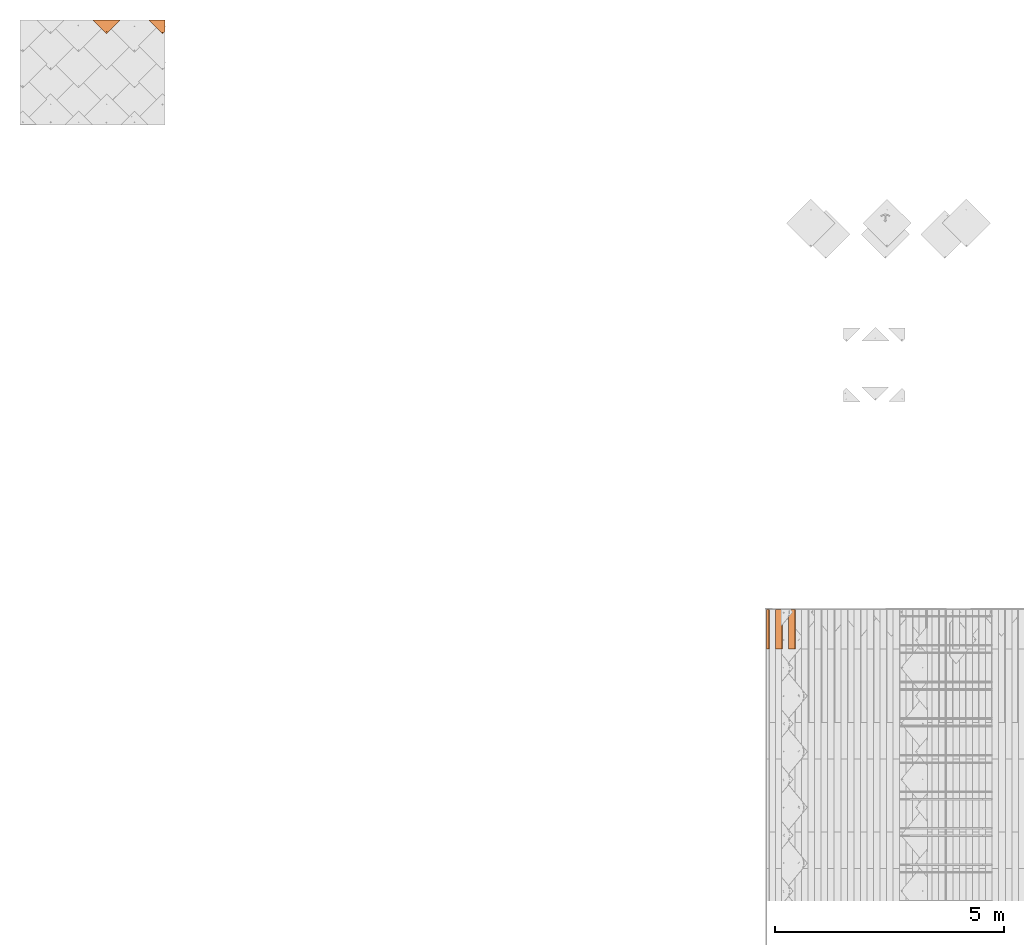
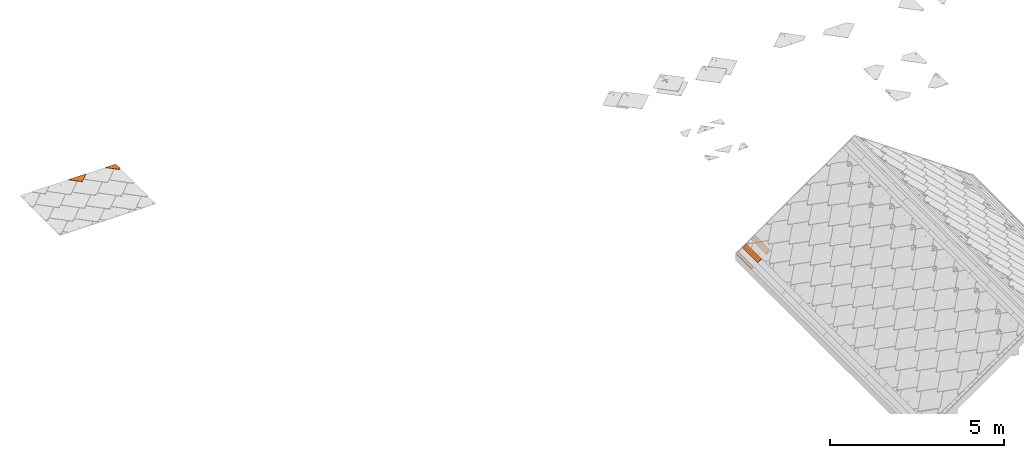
# One storey, part 106 of 133: 5 proxies, 1 element without a shape of its own.
"""IFC2X3 building model written with IfcOpenShell, lengths in millimetres."""

from ifc_helpers import new_model, entity, si_unit, converted_unit, derived_unit, direction, frame, frame_2d, origin, place, context, subcontext, project, spatial, polyline, rectangle, outline, extrude, faceted_brep, source, transform, mapped, material, material_list, type_object, type_shapes, element, aggregate, save


model = new_model("IFC2X3")

# Units and contexts
model_context = context("Model", 3, precision=0.01, world=origin(), true_north=direction((6.12303176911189e-17, 1.0)))
body_context = subcontext(model_context, "Body", "Model", "MODEL_VIEW")
ifc_project = project(units=[si_unit("LENGTHUNIT", "METRE", prefix="MILLI"), si_unit("AREAUNIT", "SQUARE_METRE"), si_unit("VOLUMEUNIT", "CUBIC_METRE"), converted_unit("PLANEANGLEUNIT", "DEGREE", entity("IfcRatioMeasure", 0.0174532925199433), si_unit("PLANEANGLEUNIT", "RADIAN"), dimensions=[0, 0, 0, 0, 0, 0, 0]), si_unit("MASSUNIT", "GRAM", prefix="KILO"), derived_unit("MASSDENSITYUNIT", [(si_unit("MASSUNIT", "GRAM", prefix="KILO"), 1), (si_unit("LENGTHUNIT", "METRE"), -3)]), si_unit("TIMEUNIT", "SECOND"), si_unit("FREQUENCYUNIT", "HERTZ"), si_unit("THERMODYNAMICTEMPERATUREUNIT", "DEGREE_CELSIUS"), derived_unit("THERMALTRANSMITTANCEUNIT", [(si_unit("MASSUNIT", "GRAM", prefix="KILO"), 1), (si_unit("THERMODYNAMICTEMPERATUREUNIT", "KELVIN"), -1), (si_unit("TIMEUNIT", "SECOND"), -3)]), derived_unit("VOLUMETRICFLOWRATEUNIT", [(si_unit("LENGTHUNIT", "METRE"), 3), (si_unit("TIMEUNIT", "SECOND"), -1)]), si_unit("ELECTRICCURRENTUNIT", "AMPERE"), si_unit("ELECTRICVOLTAGEUNIT", "VOLT"), si_unit("POWERUNIT", "WATT"), si_unit("FORCEUNIT", "NEWTON", prefix="KILO"), si_unit("ILLUMINANCEUNIT", "LUX"), si_unit("LUMINOUSFLUXUNIT", "LUMEN"), si_unit("LUMINOUSINTENSITYUNIT", "CANDELA"), derived_unit("USERDEFINED", [(si_unit("MASSUNIT", "GRAM", prefix="KILO"), -1), (si_unit("LENGTHUNIT", "METRE"), -2), (si_unit("TIMEUNIT", "SECOND"), 3), (si_unit("LUMINOUSFLUXUNIT", "LUMEN"), 1)]), derived_unit("LINEARVELOCITYUNIT", [(si_unit("LENGTHUNIT", "METRE"), 1), (si_unit("TIMEUNIT", "SECOND"), -1)]), si_unit("PRESSUREUNIT", "PASCAL"), derived_unit("USERDEFINED", [(si_unit("LENGTHUNIT", "METRE"), -2), (si_unit("MASSUNIT", "GRAM", prefix="KILO"), 1), (si_unit("TIMEUNIT", "SECOND"), -2)])], contexts=[model_context])

# Site, building, storey
site_placement = place(None, origin())
site = spatial("IfcSite", under=ifc_project, at=site_placement, Name="Default", CompositionType="ELEMENT")
building_placement = place(site_placement, origin())
building = spatial("IfcBuilding", under=site, at=building_placement, CompositionType="ELEMENT")
storey_placement = place(building_placement, origin())
storey = spatial("IfcBuildingStorey", under=building, at=storey_placement, Name="Level 1", CompositionType="ELEMENT", Elevation=0.0)

# Assembly, proxies
assembly_placement = place(storey_placement, origin())
assembly = element("IfcElementAssembly", 1, at=assembly_placement, inside=storey, Name="Structural Framing Assembly:Roof Construction Assembly", ObjectType="Structural Framing Assembly:Roof Construction Assembly", AssemblyPlace="NOTDEFINED", PredefinedType="USERDEFINED")
ifc_material_1 = material(Name="Wood - Generic - Wood For Showcase")
building_element_proxy_type_1 = type_object("IfcBuildingElementProxyType", Name="Structural Framing 15", PredefinedType="NOTDEFINED", material=ifc_material_1)
shared_shape_1 = source(origin(), body_context, "Body", "SweptSolid", [
    extrude(rectangle(XDim=24.9999999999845, YDim=174.344679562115, at=frame_2d((-1.77635683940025e-13, -4.54747350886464e-13), x_axis=(0.0, 1.0))), frame((1128.20180147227, 3055.55080214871, 2760.23940055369), z_axis=(0.0, 1.0, 0.0), x_axis=(-0.819152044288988, 0.0, -0.573576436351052)), (0.0, 0.0, 1.0), 870.000000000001),
])
type_shapes(building_element_proxy_type_1, [shared_shape_1])
proxy_1_placement = place(assembly_placement, frame((-3284.74041550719, 0.0, -2300.0)))
proxy_1 = element("IfcBuildingElementProxy", 2, at=proxy_1_placement, type_object=building_element_proxy_type_1, material=ifc_material_1, Name="Structural Framing 134:Structural Framing 15", ObjectType="Structural Framing 134:Structural Framing 15", context=body_context, shape_type="MappedRepresentation", body=[
    mapped(shared_shape_1, transform((0.0, 0.0, 0.0), scale=1.0)),
])
building_element_proxy_type_2 = type_object("IfcBuildingElementProxyType", Name="Structural Framing 15", PredefinedType="NOTDEFINED", material=ifc_material_1)
shared_shape_2 = source(origin(), body_context, "Body", "SweptSolid", [
    extrude(rectangle(XDim=24.9999999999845, YDim=174.344679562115, at=frame_2d((-1.77635683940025e-13, -4.54747350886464e-13), x_axis=(0.0, 1.0))), frame((1128.20180147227, 3055.55080214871, 2760.23940055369), z_axis=(0.0, 1.0, 0.0), x_axis=(-0.819152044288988, 0.0, -0.573576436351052)), (0.0, 0.0, 1.0), 870.000000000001),
])
type_shapes(building_element_proxy_type_2, [shared_shape_2])
proxy_2_placement = place(assembly_placement, frame((-3570.37001685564, 0.0, -2500.0)))
proxy_2 = element("IfcBuildingElementProxy", 3, at=proxy_2_placement, type_object=building_element_proxy_type_2, material=ifc_material_1, Name="Structural Framing 144:Structural Framing 15", ObjectType="Structural Framing 144:Structural Framing 15", context=body_context, shape_type="MappedRepresentation", body=[
    mapped(shared_shape_2, transform((0.0, 0.0, 0.0), scale=1.0)),
])
building_element_proxy_type_3 = type_object("IfcBuildingElementProxyType", Name="Structural Framing 15", PredefinedType="NOTDEFINED", material=ifc_material_1)
shared_shape_3 = source(origin(), body_context, "Body", "SweptSolid", [
    extrude(outline(polyline([(-38.2231230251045, -12.4999999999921), (46.9757172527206, -12.4999999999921), (29.4705287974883, 12.4999999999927), (-38.2231230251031, 12.4999999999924), (-38.2231230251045, -12.4999999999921)])), frame((-2687.70096575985, -6581.94919785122, 88.315517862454), z_axis=(0.0, 1.0, 0.0), x_axis=(-0.81915204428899, 0.0, -0.573576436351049)), (0.0, 0.0, 1.0), 869.999999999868),
])
type_shapes(building_element_proxy_type_3, [shared_shape_3])
proxy_3_placement = place(assembly_placement, frame((0.0, 9637.49999999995, 0.0)))
proxy_3 = element("IfcBuildingElementProxy", 4, at=proxy_3_placement, type_object=building_element_proxy_type_3, material=ifc_material_1, Name="Structural Framing 154:Structural Framing 15", ObjectType="Structural Framing 154:Structural Framing 15", context=body_context, shape_type="MappedRepresentation", body=[
    mapped(shared_shape_3, transform((0.0, 0.0, 0.0), scale=1.0)),
])
aggregate(assembly, [proxy_1, proxy_2, proxy_3])

# Proxies
ifc_material_2 = material(Name="Rubber - Sunstyle - Black")
ifc_material_3 = material(Name="Glass - Sunstyle - Tainted Black")
ifc_material_list_1 = material_list([ifc_material_2, ifc_material_3])
ifc_material_list_2 = material_list([ifc_material_2, ifc_material_3])
building_element_proxy_type_4 = type_object("IfcBuildingElementProxyType", Name="Corner Top Small Right - Black", PredefinedType="NOTDEFINED", material=ifc_material_list_2)
shared_shape_4 = source(origin(), body_context, "Body", "Brep", [
    faceted_brep([(300.309183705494, 41.6050579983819, 1.59527223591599), (294.534980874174, 38.2717878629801, 1.65109621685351), (294.534980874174, 38.6400969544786, 23.6429655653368), (300.309183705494, 41.9733670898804, 23.5871415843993), (294.534980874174, 31.6052475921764, 1.76274417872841), (294.534980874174, 31.9735566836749, 23.7546135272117), (300.309183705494, 28.2719774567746, 1.81856815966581), (300.309183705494, 28.640286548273, 23.8104375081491), (306.083386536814, 31.6052475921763, 1.7627441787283), (306.083386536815, 31.9735566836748, 23.7546135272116), (306.083386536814, 38.2717878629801, 1.65109621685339), (306.083386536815, 38.6400969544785, 23.6429655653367), (291.705479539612, 26.704328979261, 23.8428599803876), (300.309183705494, 23.1410577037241, 23.9025359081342), (288.141708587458, 35.3068268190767, 23.6987895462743), (291.705479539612, 43.9093246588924, 23.5547191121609), (300.309183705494, 47.4725959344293, 23.4950431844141), (308.912887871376, 43.9093246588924, 23.5547191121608), (312.476658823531, 35.3068268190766, 23.6987895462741), (308.912887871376, 26.704328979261, 23.8428599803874), (288.984939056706, 37.6019039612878, 26.0116314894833), (290.552709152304, 35.3778417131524, 27.9391141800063), (300.309183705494, 42.6909169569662, 28.5718145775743), (300.309183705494, 43.9314145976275, 27.9914679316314), (300.309183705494, 46.0889654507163, 26.98209285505), (300.309183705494, 23.6971017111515, 25.1775938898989), (300.309183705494, 24.6406783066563, 27.3412982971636), (300.309183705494, 28.0900540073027, 28.8163427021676), (300.309183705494, 46.9595598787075, 24.7880055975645), (293.985938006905, 31.7402697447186, 28.7552106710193), (293.985938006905, 39.0407012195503, 28.6329466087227), (311.633428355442, 33.0904837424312, 26.0871865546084), (310.15806385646, 34.3034352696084, 27.8602460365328), (306.632429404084, 39.0407012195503, 28.6329466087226), (306.632429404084, 31.7402697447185, 28.7552106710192), (293.985938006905, 31.8742982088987, 36.7580988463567), (300.309183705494, 28.224082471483, 36.8192308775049), (300.309183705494, 35.5245139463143, 36.6969668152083), (293.985938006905, 39.17472968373, 36.6358347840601), (306.632429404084, 31.8742982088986, 36.7580988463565), (306.632429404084, 39.1747296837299, 36.6358347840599), (300.309183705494, 42.8249454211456, 36.5747027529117), (300.309183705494, 34.9385177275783, 1.7069201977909)], [[[0, 1, 2, 3]], [[1, 4, 5, 2]], [[4, 6, 7, 5]], [[6, 8, 9, 7]], [[8, 10, 11, 9]], [[10, 0, 3, 11]], [[12, 7, 13]], [[7, 12, 5]], [[14, 5, 12]], [[5, 14, 2]], [[15, 2, 14]], [[3, 2, 15]], [[15, 16, 3]], [[16, 17, 3]], [[11, 3, 17]], [[11, 17, 18]], [[9, 11, 18]], [[18, 19, 9]], [[7, 9, 19]], [[19, 13, 7]], [[20, 14, 12]], [[21, 22, 23, 24]], [[24, 20, 21]], [[25, 20, 12]], [[26, 27, 21]], [[15, 14, 20]], [[12, 13, 25]], [[20, 28, 15]], [[28, 20, 24]], [[21, 27, 29]], [[21, 29, 30]], [[26, 21, 20]], [[20, 25, 26]], [[15, 28, 16]], [[21, 30, 22]], [[31, 18, 17]], [[28, 31, 17]], [[32, 27, 26]], [[26, 31, 32]], [[26, 25, 31]], [[25, 19, 31]], [[17, 16, 28]], [[31, 19, 18]], [[24, 31, 28]], [[33, 34, 32]], [[23, 22, 33]], [[24, 32, 31]], [[27, 32, 34]], [[32, 23, 33]], [[19, 25, 13]], [[32, 24, 23]], [[35, 36, 37]], [[37, 38, 35]], [[36, 39, 37]], [[40, 37, 39]], [[37, 40, 41]], [[37, 41, 38]], [[42, 6, 4]], [[4, 1, 42]], [[1, 0, 42]], [[42, 8, 6]], [[0, 10, 42]], [[8, 42, 10]], [[22, 30, 38, 41]], [[30, 29, 35, 38]], [[29, 27, 36, 35]], [[27, 34, 39, 36]], [[34, 33, 40, 39]], [[33, 22, 41, 40]]]),
    faceted_brep([(300.700466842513, 0.125588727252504, 24.1962208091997), (304.302649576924, 28.4261395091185, 23.7222570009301), (302.373201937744, 27.6270481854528, 23.7356397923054), (305.959503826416, 29.6973102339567, 23.7009680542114), (300.302649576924, 27.3544930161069, 23.7402044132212), (307.230852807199, 31.3539321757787, 23.6732237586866), (360.803898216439, 60.2121670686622, 23.189920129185), (298.232097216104, 27.6270481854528, 23.7356397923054), (296.302649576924, 28.4261395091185, 23.7222570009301), (294.645795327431, 29.6973102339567, 23.7009680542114), (293.374446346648, 31.3539321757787, 23.6732237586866), (292.575242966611, 33.2831092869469, 23.6409148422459), (0.0, 300.741739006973, 19.1616482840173), (308.030056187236, 33.2831092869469, 23.6409148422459), (308.302649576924, 35.3533713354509, 23.6062431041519), (308.030056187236, 37.4236333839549, 23.5715713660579), (307.230852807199, 39.3528104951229, 23.5392624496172), (305.959503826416, 41.0094324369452, 23.5115181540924), (304.302649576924, 42.2806031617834, 23.4902292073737), (302.373201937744, 43.079694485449, 23.4768464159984), (300.302649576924, 43.3522496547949, 23.4722817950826), (360.803898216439, 300.741739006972, 19.1616482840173), (298.232097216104, 43.079694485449, 23.4768464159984), (296.302649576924, 42.2806031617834, 23.4902292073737), (294.645795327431, 41.009432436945, 23.5115181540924), (292.302649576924, 35.3533713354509, 23.6062431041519), (292.575242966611, 37.4236333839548, 23.5715713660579), (293.374446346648, 39.3528104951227, 23.5392624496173), (300.302649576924, 43.2266609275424, 15.9733333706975), (360.803898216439, 300.616150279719, 11.6626998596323), (360.803898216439, 60.0865783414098, 15.6909717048), (302.373201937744, 42.9541057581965, 15.9778979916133), (298.232097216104, 42.9541057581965, 15.9778979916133), (296.302649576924, 42.1550144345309, 15.9912807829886), (0.0, 300.61615027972, 11.6626998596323), (294.645795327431, 40.8838437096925, 16.0125697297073), (293.374446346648, 39.2272217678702, 16.0403140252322), (292.575242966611, 37.2980446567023, 16.0726229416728), (292.302649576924, 35.2277826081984, 16.1072946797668), (292.575242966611, 33.1575205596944, 16.1419664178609), (300.700466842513, 0.0, 16.6972723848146), (293.374446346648, 31.2283434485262, 16.1742753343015), (294.645795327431, 29.5717215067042, 16.2020196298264), (296.302649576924, 28.300550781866, 16.2233085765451), (298.232097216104, 27.5014594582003, 16.2366913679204), (300.302649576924, 27.2289042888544, 16.2412559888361), (302.373201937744, 27.5014594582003, 16.2366913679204), (304.302649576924, 28.300550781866, 16.2233085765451), (305.959503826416, 29.5717215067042, 16.2020196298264), (307.230852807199, 31.2283434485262, 16.1742753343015), (308.030056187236, 33.1575205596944, 16.1419664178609), (308.302649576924, 35.2277826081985, 16.1072946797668), (308.030056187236, 37.2980446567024, 16.0726229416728), (307.230852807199, 39.2272217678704, 16.0403140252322), (305.959503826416, 40.8838437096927, 16.0125697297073), (304.302649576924, 42.1550144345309, 15.9912807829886)], [[[0, 1, 2]], [[1, 0, 3]], [[0, 2, 4]], [[5, 3, 0]], [[5, 0, 6]], [[4, 7, 0]], [[7, 8, 0]], [[8, 9, 0]], [[9, 10, 0]], [[10, 11, 0]], [[0, 11, 12]], [[6, 13, 5]], [[14, 13, 6]], [[15, 14, 6]], [[16, 15, 6]], [[17, 16, 6]], [[6, 18, 17]], [[19, 18, 6]], [[19, 6, 20]], [[6, 21, 20]], [[20, 21, 22]], [[23, 22, 21]], [[12, 23, 21]], [[23, 12, 24]], [[11, 25, 12]], [[26, 12, 25]], [[26, 27, 12]], [[27, 24, 12]], [[28, 29, 30]], [[28, 30, 31]], [[32, 29, 28]], [[32, 33, 29]], [[29, 33, 34]], [[33, 35, 34]], [[35, 36, 34]], [[36, 37, 34]], [[34, 37, 38]], [[38, 39, 34]], [[40, 34, 39]], [[39, 41, 40]], [[41, 42, 40]], [[42, 43, 40]], [[44, 40, 43]], [[44, 45, 40]], [[46, 40, 45]], [[40, 46, 47]], [[47, 48, 40]], [[48, 49, 40]], [[50, 30, 49]], [[30, 40, 49]], [[50, 51, 30]], [[30, 51, 52]], [[52, 53, 30]], [[53, 54, 30]], [[54, 55, 30]], [[31, 30, 55]], [[0, 12, 34, 40]], [[6, 0, 40, 30]], [[25, 38, 37, 26]], [[26, 37, 36, 27]], [[23, 24, 35, 33]], [[35, 24, 27, 36]], [[22, 23, 33, 32]], [[22, 32, 28, 20]], [[20, 28, 31, 19]], [[19, 31, 55, 18]], [[16, 17, 54, 53]], [[54, 17, 18, 55]], [[15, 16, 53, 52]], [[15, 52, 51, 14]], [[14, 51, 50, 13]], [[13, 50, 49, 5]], [[1, 3, 48, 47]], [[48, 3, 5, 49]], [[2, 1, 47, 46]], [[2, 46, 45, 4]], [[4, 45, 44, 7]], [[7, 44, 43, 8]], [[10, 9, 42, 41]], [[42, 9, 8, 43]], [[11, 10, 41, 39]], [[11, 39, 38, 25]], [[12, 21, 29, 34]], [[21, 6, 30, 29]]]),
])
type_shapes(building_element_proxy_type_4, [shared_shape_4])
proxy_4_placement = place(storey_placement, frame((-16230.866130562, 16513.4189150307, 2.41109682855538)))
element("IfcBuildingElementProxy", 5, at=proxy_4_placement, inside=storey, type_object=building_element_proxy_type_4, material=ifc_material_list_1, Name="Roofing_Panels_SunStyle_Tile_Corner-Top-Small-Right:Corner Top Small Right - Black", ObjectType="Roofing_Panels_SunStyle_Tile_Corner-Top-Small-Right:Corner Top Small Right - Black", context=body_context, shape_type="MappedRepresentation", body=[
    mapped(shared_shape_4, transform((0.0, 0.0, 0.0), scale=1.0)),
])
ifc_material_list_3 = material_list([ifc_material_2, ifc_material_3])
ifc_material_list_4 = material_list([ifc_material_2, ifc_material_3])
building_element_proxy_type_5 = type_object("IfcBuildingElementProxyType", Name="Shingle Top Small - Black", PredefinedType="NOTDEFINED", material=ifc_material_list_4)
shared_shape_5 = source(origin(), body_context, "Body", "Brep", [
    faceted_brep([(300.675008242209, 41.77298489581, 1.59527223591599), (294.900805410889, 38.4397147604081, 1.65109621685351), (294.900805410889, 38.8080238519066, 23.6429655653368), (300.675008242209, 42.1412939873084, 23.5871415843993), (294.900805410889, 31.7731744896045, 1.76274417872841), (294.900805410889, 32.1414835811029, 23.7546135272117), (300.675008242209, 28.4399043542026, 1.81856815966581), (300.675008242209, 28.808213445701, 23.8104375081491), (306.44921107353, 31.7731744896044, 1.7627441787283), (306.44921107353, 32.1414835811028, 23.7546135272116), (306.44921107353, 38.4397147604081, 1.65109621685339), (306.44921107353, 38.8080238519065, 23.6429655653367), (292.071304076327, 26.8722558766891, 23.8428599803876), (300.675008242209, 23.3089846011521, 23.9025359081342), (288.507533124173, 35.4747537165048, 23.6987895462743), (292.071304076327, 44.0772515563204, 23.5547191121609), (300.675008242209, 47.6405228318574, 23.4950431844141), (309.278712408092, 44.0772515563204, 23.5547191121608), (312.842483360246, 35.4747537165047, 23.6987895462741), (309.278712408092, 26.872255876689, 23.8428599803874), (289.350763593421, 37.7698308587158, 26.0116314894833), (290.91853368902, 35.5457686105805, 27.9391141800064), (300.67500824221, 42.8588438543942, 28.5718145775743), (300.67500824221, 44.0993414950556, 27.9914679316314), (300.675008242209, 46.2568923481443, 26.98209285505), (300.675008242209, 23.8650286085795, 25.1775938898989), (300.675008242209, 24.8086052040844, 27.3412982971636), (300.675008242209, 28.2579809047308, 28.8163427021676), (300.675008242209, 47.1274867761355, 24.7880055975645), (294.35176254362, 31.9081966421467, 28.7552106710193), (294.35176254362, 39.2086281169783, 28.6329466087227), (311.999252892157, 33.2584106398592, 26.0871865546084), (310.523888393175, 34.4713621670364, 27.8602460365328), (306.998253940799, 39.2086281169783, 28.6329466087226), (306.998253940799, 31.9081966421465, 28.7552106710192), (294.35176254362, 32.0422251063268, 36.7580988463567), (300.67500824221, 28.3920093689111, 36.8192308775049), (300.67500824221, 35.6924408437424, 36.6969668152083), (294.35176254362, 39.342656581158, 36.6358347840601), (306.998253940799, 32.0422251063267, 36.7580988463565), (306.998253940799, 39.342656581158, 36.6358347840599), (300.67500824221, 42.9928723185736, 36.5747027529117), (300.675008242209, 35.1064446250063, 1.7069201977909)], [[[0, 1, 2, 3]], [[1, 4, 5, 2]], [[4, 6, 7, 5]], [[6, 8, 9, 7]], [[8, 10, 11, 9]], [[10, 0, 3, 11]], [[12, 7, 13]], [[7, 12, 5]], [[14, 5, 12]], [[5, 14, 2]], [[15, 2, 14]], [[3, 2, 15]], [[15, 16, 3]], [[16, 17, 3]], [[11, 3, 17]], [[11, 17, 18]], [[9, 11, 18]], [[18, 19, 9]], [[7, 9, 19]], [[19, 13, 7]], [[20, 14, 12]], [[21, 22, 23, 24]], [[24, 20, 21]], [[25, 20, 12]], [[26, 27, 21]], [[15, 14, 20]], [[12, 13, 25]], [[20, 28, 15]], [[28, 20, 24]], [[21, 27, 29]], [[21, 29, 30]], [[26, 21, 20]], [[20, 25, 26]], [[15, 28, 16]], [[21, 30, 22]], [[31, 18, 17]], [[28, 31, 17]], [[32, 27, 26]], [[26, 31, 32]], [[26, 25, 31]], [[25, 19, 31]], [[17, 16, 28]], [[31, 19, 18]], [[24, 31, 28]], [[33, 34, 32]], [[23, 22, 33]], [[24, 32, 31]], [[27, 32, 34]], [[32, 23, 33]], [[19, 25, 13]], [[32, 24, 23]], [[35, 36, 37]], [[37, 38, 35]], [[36, 39, 37]], [[40, 37, 39]], [[37, 40, 41]], [[37, 41, 38]], [[42, 6, 4]], [[4, 1, 42]], [[1, 0, 42]], [[42, 8, 6]], [[0, 10, 42]], [[8, 42, 10]], [[22, 30, 38, 41]], [[30, 29, 35, 38]], [[29, 27, 36, 35]], [[27, 34, 39, 36]], [[34, 33, 40, 39]], [[33, 22, 41, 40]]]),
    faceted_brep([(601.350661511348, 300.716609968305, 19.1616152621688), (307.603211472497, 39.4797476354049, 23.5366826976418), (308.402414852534, 37.5505705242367, 23.5689916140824), (306.331862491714, 41.1363695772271, 23.5089384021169), (308.675008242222, 35.4803084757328, 23.6036633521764), (304.675008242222, 42.4075403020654, 23.4876494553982), (302.745560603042, 43.206631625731, 23.4742666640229), (300.675008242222, 43.4791867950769, 23.4697020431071), (308.402414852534, 33.4100464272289, 23.6383350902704), (300.675330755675, 0.125588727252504, 24.1957669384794), (0.0, 300.716609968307, 19.1616152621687), (298.604455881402, 43.2066316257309, 23.4742666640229), (296.675008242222, 42.4075403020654, 23.4876494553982), (295.018153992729, 41.136369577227, 23.5089384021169), (293.746805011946, 39.4797476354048, 23.5366826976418), (292.947601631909, 37.5505705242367, 23.5689916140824), (292.675008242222, 35.4803084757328, 23.6036633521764), (292.947601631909, 33.4100464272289, 23.6383350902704), (293.746805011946, 31.4808693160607, 23.6706440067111), (307.603211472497, 31.4808693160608, 23.6706440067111), (306.331862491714, 29.8242473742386, 23.698388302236), (304.675008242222, 28.5530766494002, 23.7196772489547), (302.745560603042, 27.7539853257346, 23.73306004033), (300.675008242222, 27.4814301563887, 23.7376246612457), (298.604455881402, 27.7539853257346, 23.73306004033), (296.675008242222, 28.5530766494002, 23.7196772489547), (295.018153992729, 29.8242473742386, 23.698388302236), (0.0, 300.591021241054, 11.6626668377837), (295.018153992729, 41.0107808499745, 16.0099899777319), (293.746805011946, 39.3541589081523, 16.0377342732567), (296.675008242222, 42.2819515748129, 15.9887010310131), (292.947601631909, 37.4249817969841, 16.0700431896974), (298.604455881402, 43.0810428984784, 15.9753182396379), (300.675008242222, 43.3535980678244, 15.9707536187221), (601.350661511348, 300.591021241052, 11.6626668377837), (292.675008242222, 35.3547197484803, 16.1047149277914), (292.947601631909, 33.2844576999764, 16.1393866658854), (300.675330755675, 0.0, 16.6968185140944), (302.745560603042, 43.0810428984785, 15.9753182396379), (304.675008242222, 42.2819515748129, 15.9887010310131), (306.331862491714, 41.0107808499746, 16.0099899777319), (307.603211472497, 39.3541589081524, 16.0377342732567), (308.402414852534, 37.4249817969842, 16.0700431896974), (308.675008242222, 35.3547197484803, 16.1047149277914), (308.402414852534, 33.2844576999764, 16.1393866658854), (307.603211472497, 31.3552805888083, 16.171695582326), (293.746805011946, 31.3552805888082, 16.171695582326), (295.018153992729, 29.6986586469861, 16.1994398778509), (296.675008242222, 28.4274879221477, 16.2207288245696), (298.604455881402, 27.6283965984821, 16.2341116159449), (300.675008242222, 27.3558414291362, 16.2386762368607), (302.745560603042, 27.6283965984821, 16.2341116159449), (304.675008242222, 28.4274879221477, 16.2207288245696), (306.331862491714, 29.6986586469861, 16.1994398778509)], [[[0, 1, 2]], [[1, 0, 3]], [[0, 2, 4]], [[5, 3, 0]], [[6, 5, 0]], [[0, 7, 6]], [[4, 8, 0]], [[8, 9, 0]], [[7, 0, 10]], [[11, 7, 10]], [[12, 11, 10]], [[10, 13, 12]], [[13, 10, 14]], [[15, 14, 10]], [[10, 16, 15]], [[17, 16, 10]], [[10, 9, 17]], [[17, 9, 18]], [[8, 19, 9]], [[20, 9, 19]], [[20, 21, 9]], [[22, 9, 21]], [[23, 9, 22]], [[23, 24, 9]], [[24, 25, 9]], [[25, 26, 9]], [[9, 26, 18]], [[27, 28, 29]], [[28, 27, 30]], [[27, 29, 31]], [[32, 30, 27]], [[33, 32, 27]], [[27, 34, 33]], [[31, 35, 27]], [[35, 36, 27]], [[27, 36, 37]], [[38, 33, 34]], [[39, 38, 34]], [[40, 39, 34]], [[34, 41, 40]], [[41, 34, 42]], [[43, 42, 34]], [[34, 44, 43]], [[37, 44, 34]], [[45, 44, 37]], [[37, 36, 46]], [[37, 46, 47]], [[47, 48, 37]], [[48, 49, 37]], [[50, 37, 49]], [[50, 51, 37]], [[37, 51, 52]], [[52, 53, 37]], [[45, 37, 53]], [[9, 10, 27, 37]], [[0, 9, 37, 34]], [[16, 35, 31, 15]], [[15, 31, 29, 14]], [[12, 13, 28, 30]], [[28, 13, 14, 29]], [[11, 12, 30, 32]], [[11, 32, 33, 7]], [[7, 33, 38, 6]], [[6, 38, 39, 5]], [[1, 3, 40, 41]], [[40, 3, 5, 39]], [[2, 1, 41, 42]], [[2, 42, 43, 4]], [[4, 43, 44, 8]], [[8, 44, 45, 19]], [[21, 20, 53, 52]], [[53, 20, 19, 45]], [[22, 21, 52, 51]], [[22, 51, 50, 23]], [[23, 50, 49, 24]], [[24, 49, 48, 25]], [[18, 26, 47, 46]], [[47, 26, 25, 48]], [[17, 18, 46, 36]], [[17, 36, 35, 16]], [[10, 0, 34, 27]]]),
])
type_shapes(building_element_proxy_type_5, [shared_shape_5])
proxy_5_placement = place(storey_placement, frame((-17453.5372405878, 16515.782854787, 2.4110968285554)))
element("IfcBuildingElementProxy", 6, at=proxy_5_placement, inside=storey, type_object=building_element_proxy_type_5, material=ifc_material_list_3, Name="Roofing_Panels_SunStyle_Tile_Shingle-Top-Small:Shingle Top Small - Black", ObjectType="Roofing_Panels_SunStyle_Tile_Shingle-Top-Small:Shingle Top Small - Black", context=body_context, shape_type="MappedRepresentation", body=[
    mapped(shared_shape_5, transform((0.0, 0.0, 0.0), scale=1.0)),
])

save(model, "model.ifc")
